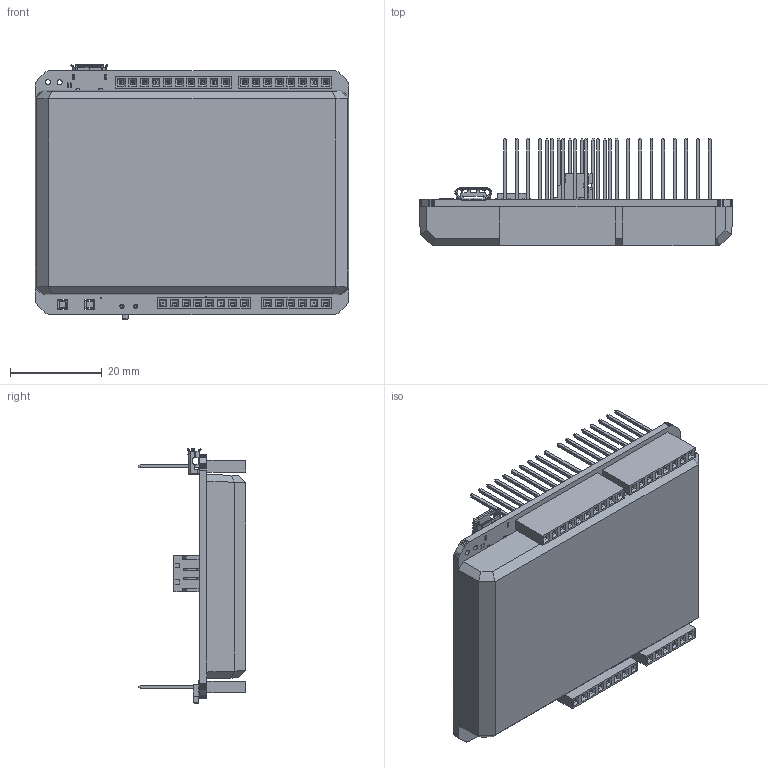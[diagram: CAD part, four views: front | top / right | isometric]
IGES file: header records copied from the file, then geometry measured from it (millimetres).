
Start section: SolidWorks IGES file using analytic representation for surfaces
Global section: file name: C:\Working Files\Work In Progress - Local\energyShield 2 - CAD - For Website\NightShade energyShield 2 Basic CAD\NightShade energyShield 2.IGS; native system: SolidWorks 2015; preprocessor: SolidWorks 2015; author: Jordan; date: 170516.160908; units: millimetre
Bounding box: 68.58 x 23.5 x 55.61 mm (x, y, z)
Surface area: 20498.1 mm2 (no closed solid volume)
Topology: 0 solids, 0 shells, 1830 faces, 16904 edges, 16892 vertices
Faces by surface type: bspline 1155, revolution 675
